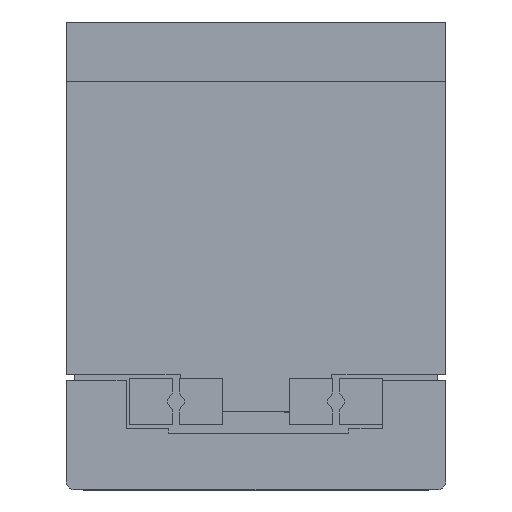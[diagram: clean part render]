
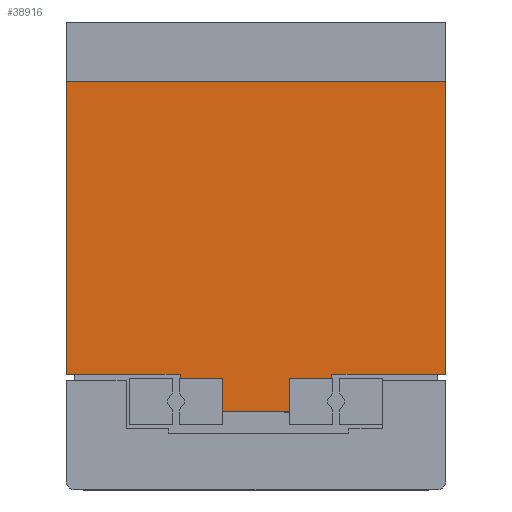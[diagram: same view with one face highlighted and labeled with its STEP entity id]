
A CAD part, left-side view. The second image highlights one B-rep face of the part: STEP entity #38916.
In plain terms, the highlighted planar face has unit normal (-1, 0, 0) as drawn and (0, 0, -1) by its records, which use the part's own axes.
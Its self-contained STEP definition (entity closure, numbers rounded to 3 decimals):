
#591 = LINE ( 'NONE', #27967, #2872 ) ;
#1474 = CARTESIAN_POINT ( 'NONE',  ( 8., 70.5, -48.25 ) ) ;
#2145 = VERTEX_POINT ( 'NONE', #16700 ) ;
#2207 = ORIENTED_EDGE ( 'NONE', *, *, #25887, .F. ) ;
#2263 = EDGE_CURVE ( 'NONE', #24989, #30825, #12914, .T. ) ;
#2524 = CARTESIAN_POINT ( 'NONE',  ( 18., 69.5, -48.25 ) ) ;
#2872 = VECTOR ( 'NONE', #42733, 1000. ) ;
#3067 = VECTOR ( 'NONE', #46051, 1000. ) ;
#3098 = LINE ( 'NONE', #8439, #4240 ) ;
#3378 = CARTESIAN_POINT ( 'NONE',  ( -45., 0., -48.25 ) ) ;
#3656 = LINE ( 'NONE', #45737, #3067 ) ;
#4203 = DIRECTION ( 'NONE',  ( -1., 0., 0. ) ) ;
#4240 = VECTOR ( 'NONE', #26038, 1000. ) ;
#4280 = ORIENTED_EDGE ( 'NONE', *, *, #2263, .T. ) ;
#5400 = ORIENTED_EDGE ( 'NONE', *, *, #28371, .F. ) ;
#6144 = ORIENTED_EDGE ( 'NONE', *, *, #45141, .T. ) ;
#7302 = DIRECTION ( 'NONE',  ( -1., 0., 0. ) ) ;
#7398 = VERTEX_POINT ( 'NONE', #36135 ) ;
#7568 = DIRECTION ( 'NONE',  ( 0., 0., 1. ) ) ;
#7932 = DIRECTION ( 'NONE',  ( 0., -1., 0. ) ) ;
#8185 = LINE ( 'NONE', #44493, #45876 ) ;
#8439 = CARTESIAN_POINT ( 'NONE',  ( -18., 69.5, -48.25 ) ) ;
#8688 = CARTESIAN_POINT ( 'NONE',  ( -18., 70.5, -48.25 ) ) ;
#9043 = VERTEX_POINT ( 'NONE', #30902 ) ;
#10167 = VERTEX_POINT ( 'NONE', #38376 ) ;
#10630 = EDGE_CURVE ( 'NONE', #2145, #19480, #17507, .T. ) ;
#10778 = EDGE_CURVE ( 'NONE', #9043, #32219, #32144, .T. ) ;
#11181 = VECTOR ( 'NONE', #4203, 1000. ) ;
#11754 = VERTEX_POINT ( 'NONE', #42598 ) ;
#11975 = EDGE_CURVE ( 'NONE', #10167, #32219, #29220, .T. ) ;
#12748 = ORIENTED_EDGE ( 'NONE', *, *, #20356, .F. ) ;
#12914 = LINE ( 'NONE', #14147, #25312 ) ;
#13062 = VECTOR ( 'NONE', #7932, 1000. ) ;
#13154 = CARTESIAN_POINT ( 'NONE',  ( 8., 78.5, -48.25 ) ) ;
#14147 = CARTESIAN_POINT ( 'NONE',  ( 45., 70.5, -48.25 ) ) ;
#14686 = CARTESIAN_POINT ( 'NONE',  ( -8., 78.5, -48.25 ) ) ;
#14953 = CARTESIAN_POINT ( 'NONE',  ( -45., 70.5, -48.25 ) ) ;
#16700 = CARTESIAN_POINT ( 'NONE',  ( -18., 69.5, -48.25 ) ) ;
#17507 = LINE ( 'NONE', #38024, #25943 ) ;
#17646 = LINE ( 'NONE', #3378, #22141 ) ;
#18414 = ORIENTED_EDGE ( 'NONE', *, *, #25516, .F. ) ;
#19480 = VERTEX_POINT ( 'NONE', #23802 ) ;
#20356 = EDGE_CURVE ( 'NONE', #24989, #25102, #31743, .T. ) ;
#21051 = ORIENTED_EDGE ( 'NONE', *, *, #36578, .F. ) ;
#21986 = CARTESIAN_POINT ( 'NONE',  ( -45., 70.5, -48.25 ) ) ;
#22141 = VECTOR ( 'NONE', #7302, 1000. ) ;
#22946 = DIRECTION ( 'NONE',  ( -1., 0., 0. ) ) ;
#23685 = DIRECTION ( 'NONE',  ( 0., -1., 0. ) ) ;
#23802 = CARTESIAN_POINT ( 'NONE',  ( -45., 69.5, -48.25 ) ) ;
#24989 = VERTEX_POINT ( 'NONE', #36406 ) ;
#25102 = VERTEX_POINT ( 'NONE', #43915 ) ;
#25312 = VECTOR ( 'NONE', #35111, 1000. ) ;
#25516 = EDGE_CURVE ( 'NONE', #35493, #29232, #8185, .T. ) ;
#25868 = ORIENTED_EDGE ( 'NONE', *, *, #10778, .T. ) ;
#25880 = ORIENTED_EDGE ( 'NONE', *, *, #11975, .F. ) ;
#25887 = EDGE_CURVE ( 'NONE', #9043, #7398, #3656, .T. ) ;
#25943 = VECTOR ( 'NONE', #27476, 1000. ) ;
#26038 = DIRECTION ( 'NONE',  ( 0., 1., 0. ) ) ;
#26101 = VECTOR ( 'NONE', #46374, 1000. ) ;
#26881 = FACE_OUTER_BOUND ( 'NONE', #40748, .T. ) ;
#27402 = LINE ( 'NONE', #2524, #40909 ) ;
#27476 = DIRECTION ( 'NONE',  ( -1., 0., 0. ) ) ;
#27967 = CARTESIAN_POINT ( 'NONE',  ( -45., 70.5, -48.25 ) ) ;
#28371 = EDGE_CURVE ( 'NONE', #19480, #11754, #591, .T. ) ;
#29220 = LINE ( 'NONE', #21986, #11181 ) ;
#29232 = VERTEX_POINT ( 'NONE', #8688 ) ;
#29881 = VECTOR ( 'NONE', #23685, 1000. ) ;
#30825 = VERTEX_POINT ( 'NONE', #44380 ) ;
#30902 = CARTESIAN_POINT ( 'NONE',  ( 8., 78.5, -48.25 ) ) ;
#31183 = ORIENTED_EDGE ( 'NONE', *, *, #44471, .F. ) ;
#31743 = LINE ( 'NONE', #39793, #26101 ) ;
#32144 = LINE ( 'NONE', #13154, #29881 ) ;
#32219 = VERTEX_POINT ( 'NONE', #1474 ) ;
#32773 = DIRECTION ( 'NONE',  ( 1., 0., 0. ) ) ;
#35111 = DIRECTION ( 'NONE',  ( 0., -1., 0. ) ) ;
#35493 = VERTEX_POINT ( 'NONE', #35758 ) ;
#35758 = CARTESIAN_POINT ( 'NONE',  ( -8., 70.5, -48.25 ) ) ;
#36068 = PLANE ( 'NONE',  #41455 ) ;
#36135 = CARTESIAN_POINT ( 'NONE',  ( -8., 78.5, -48.25 ) ) ;
#36406 = CARTESIAN_POINT ( 'NONE',  ( 45., 69.5, -48.25 ) ) ;
#36578 = EDGE_CURVE ( 'NONE', #7398, #35493, #42886, .T. ) ;
#37337 = ORIENTED_EDGE ( 'NONE', *, *, #42380, .T. ) ;
#38024 = CARTESIAN_POINT ( 'NONE',  ( -45., 69.5, -48.25 ) ) ;
#38376 = CARTESIAN_POINT ( 'NONE',  ( 18., 70.5, -48.25 ) ) ;
#38916 = ADVANCED_FACE ( 'NONE', ( #26881 ), #36068, .F. ) ;
#39029 = DIRECTION ( 'NONE',  ( 0., 1., 0. ) ) ;
#39793 = CARTESIAN_POINT ( 'NONE',  ( -45., 69.5, -48.25 ) ) ;
#40748 = EDGE_LOOP ( 'NONE', ( #25868, #25880, #31183, #12748, #4280, #37337, #5400, #46148, #6144, #18414, #21051, #2207 ) ) ;
#40909 = VECTOR ( 'NONE', #39029, 1000. ) ;
#41455 = AXIS2_PLACEMENT_3D ( 'NONE', #14953, #7568, #32773 ) ;
#42380 = EDGE_CURVE ( 'NONE', #30825, #11754, #17646, .T. ) ;
#42598 = CARTESIAN_POINT ( 'NONE',  ( -45., 0., -48.25 ) ) ;
#42733 = DIRECTION ( 'NONE',  ( 0., -1., 0. ) ) ;
#42886 = LINE ( 'NONE', #14686, #13062 ) ;
#43915 = CARTESIAN_POINT ( 'NONE',  ( 18., 69.5, -48.25 ) ) ;
#44380 = CARTESIAN_POINT ( 'NONE',  ( 45., 0., -48.25 ) ) ;
#44471 = EDGE_CURVE ( 'NONE', #25102, #10167, #27402, .T. ) ;
#44493 = CARTESIAN_POINT ( 'NONE',  ( -45., 70.5, -48.25 ) ) ;
#45141 = EDGE_CURVE ( 'NONE', #2145, #29232, #3098, .T. ) ;
#45737 = CARTESIAN_POINT ( 'NONE',  ( -8., 78.5, -48.25 ) ) ;
#45876 = VECTOR ( 'NONE', #22946, 1000. ) ;
#46051 = DIRECTION ( 'NONE',  ( -1., 0., 0. ) ) ;
#46148 = ORIENTED_EDGE ( 'NONE', *, *, #10630, .F. ) ;
#46374 = DIRECTION ( 'NONE',  ( -1., 0., 0. ) ) ;
